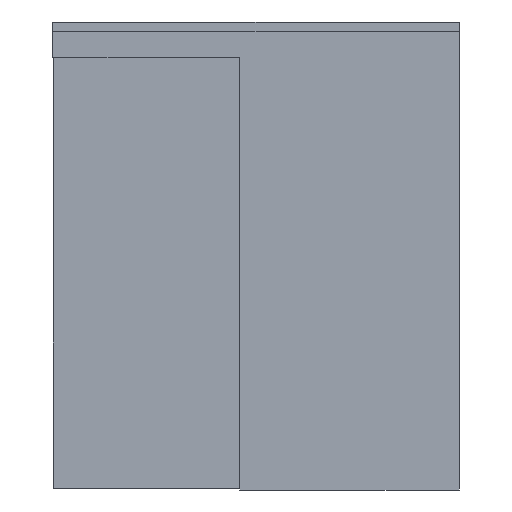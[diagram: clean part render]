
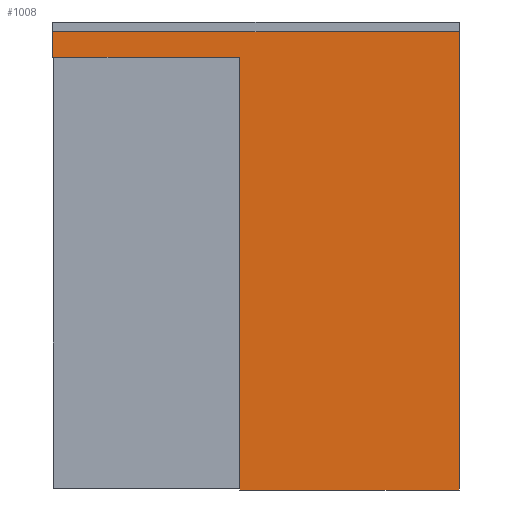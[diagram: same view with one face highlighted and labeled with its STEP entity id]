
A CAD part, front view. The second image highlights one B-rep face of the part: STEP entity #1008.
In plain terms, the highlighted planar face has unit normal (0, -1, 0).
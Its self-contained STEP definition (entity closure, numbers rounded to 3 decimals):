
#1008=ADVANCED_FACE('',(#2048),#2049,.F.);
#2048=FACE_OUTER_BOUND('',#3099,.T.);
#2049=PLANE('',#3100);
#3099=EDGE_LOOP('',(#6127,#6128,#6129,#6130,#6131,#6132));
#3100=AXIS2_PLACEMENT_3D('',#6133,#6134,#6135);
#6127=ORIENTED_EDGE('',*,*,#7360,.T.);
#6128=ORIENTED_EDGE('',*,*,#7350,.F.);
#6129=ORIENTED_EDGE('',*,*,#7354,.F.);
#6130=ORIENTED_EDGE('',*,*,#7358,.T.);
#6131=ORIENTED_EDGE('',*,*,#7361,.F.);
#6132=ORIENTED_EDGE('',*,*,#7362,.F.);
#6133=CARTESIAN_POINT('',(0.,-46.5,2333.0));
#6134=DIRECTION('',(0.0,1.0,-0.0));
#6135=DIRECTION('',(0.0,0.0,1.0));
#7350=EDGE_CURVE('',#9122,#9117,#9124,.T.);
#7354=EDGE_CURVE('',#9128,#9122,#9130,.T.);
#7358=EDGE_CURVE('',#9128,#9134,#9136,.T.);
#7360=EDGE_CURVE('',#9138,#9117,#9139,.T.);
#7361=EDGE_CURVE('',#9140,#9134,#9141,.T.);
#7362=EDGE_CURVE('',#9138,#9140,#9142,.T.);
#9117=VERTEX_POINT('',#11621);
#9122=VERTEX_POINT('',#11628);
#9124=LINE('',#11631,#11632);
#9128=VERTEX_POINT('',#11637);
#9130=LINE('',#11640,#11641);
#9134=VERTEX_POINT('',#11646);
#9136=LINE('',#11649,#11650);
#9138=VERTEX_POINT('',#11652);
#9139=LINE('',#11653,#11654);
#9140=VERTEX_POINT('',#11655);
#9141=LINE('',#11656,#11657);
#9142=LINE('',#11658,#11659);
#11621=CARTESIAN_POINT('',(965.,-46.5,2236.0));
#11628=CARTESIAN_POINT('',(965.,-46.5,0.0));
#11631=CARTESIAN_POINT('',(965.,-46.5,7.0));
#11632=VECTOR('',#12809,1.0);
#11637=CARTESIAN_POINT('',(2100.0,-46.5,0.0));
#11640=CARTESIAN_POINT('',(1327.5,-46.5,0.0));
#11641=VECTOR('',#12812,1.0);
#11646=CARTESIAN_POINT('',(2100.0,-46.5,2368.0));
#11649=CARTESIAN_POINT('',(2100.0,-46.5,7.0));
#11650=VECTOR('',#12815,1.0);
#11652=CARTESIAN_POINT('',(0.,-46.5,2236.0));
#11653=CARTESIAN_POINT('',(0.,-46.5,2236.0));
#11654=VECTOR('',#12816,1.0);
#11655=CARTESIAN_POINT('',(0.,-46.5,2368.0));
#11656=CARTESIAN_POINT('',(1270.0,-46.5,2368.0));
#11657=VECTOR('',#12817,1.0);
#11658=CARTESIAN_POINT('',(0.,-46.5,2301.0));
#11659=VECTOR('',#12818,1.0);
#12809=DIRECTION('',(0.0,0.0,1.0));
#12812=DIRECTION('',(-1.0,0.0,0.0));
#12815=DIRECTION('',(0.0,0.0,1.0));
#12816=DIRECTION('',(1.0,0.0,0.0));
#12817=DIRECTION('',(1.0,0.0,0.0));
#12818=DIRECTION('',(0.0,0.0,1.0));
